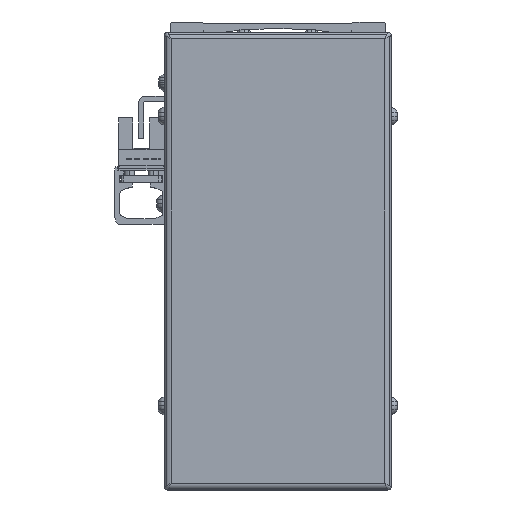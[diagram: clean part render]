
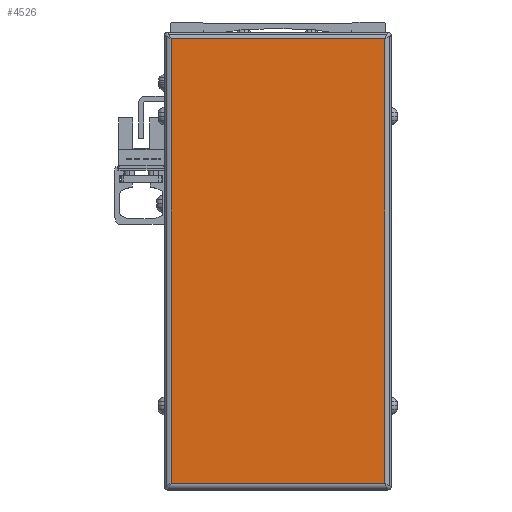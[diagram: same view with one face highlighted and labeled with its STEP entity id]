
A CAD part, front view. The second image highlights one B-rep face of the part: STEP entity #4526.
In plain terms, the highlighted planar face has unit normal (0, -1, 0).
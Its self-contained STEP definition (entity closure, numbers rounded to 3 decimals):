
#4526=ADVANCED_FACE('',(#10252),#10253,.T.);
#10252=FACE_OUTER_BOUND('',#18175,.T.);
#10253=PLANE('',#18176);
#18175=EDGE_LOOP('',(#30707,#30708,#30709,#30710));
#18176=AXIS2_PLACEMENT_3D('',#30711,#30712,#30713);
#30707=ORIENTED_EDGE('',*,*,#48066,.F.);
#30708=ORIENTED_EDGE('',*,*,#47741,.F.);
#30709=ORIENTED_EDGE('',*,*,#48428,.F.);
#30710=ORIENTED_EDGE('',*,*,#48429,.F.);
#30711=CARTESIAN_POINT('',(300.,-94.,-44.));
#30712=DIRECTION('',(0.,-1.0,0.));
#30713=DIRECTION('',(0.,0.,1.0));
#47741=EDGE_CURVE('',#58412,#58414,#58415,.T.);
#48066=EDGE_CURVE('',#58414,#57643,#58913,.T.);
#48428=EDGE_CURVE('',#59481,#58412,#59482,.T.);
#48429=EDGE_CURVE('',#57643,#59481,#59483,.T.);
#57643=VERTEX_POINT('',#71879);
#58412=VERTEX_POINT('',#72982);
#58414=VERTEX_POINT('',#72984);
#58415=LINE('',#72985,#72986);
#58913=LINE('',#73833,#73834);
#59481=VERTEX_POINT('',#74628);
#59482=LINE('',#74629,#74630);
#59483=LINE('',#74631,#74632);
#71879=CARTESIAN_POINT('',(331.7,-94.,22.));
#72982=CARTESIAN_POINT('',(268.3,-94.,-110.));
#72984=CARTESIAN_POINT('',(268.3,-94.,22.));
#72985=CARTESIAN_POINT('',(268.3,-94.,-44.));
#72986=VECTOR('',#85806,10.0);
#73833=CARTESIAN_POINT('',(300.,-94.,22.));
#73834=VECTOR('',#86163,10.0);
#74628=CARTESIAN_POINT('',(331.7,-94.,-110.));
#74629=CARTESIAN_POINT('',(300.,-94.,-110.));
#74630=VECTOR('',#86665,10.0);
#74631=CARTESIAN_POINT('',(331.7,-94.,-44.));
#74632=VECTOR('',#86666,10.0);
#85806=DIRECTION('',(0.,0.,1.0));
#86163=DIRECTION('',(1.0,0.,0.));
#86665=DIRECTION('',(-1.0,0.,0.));
#86666=DIRECTION('',(0.,0.,-1.0));
